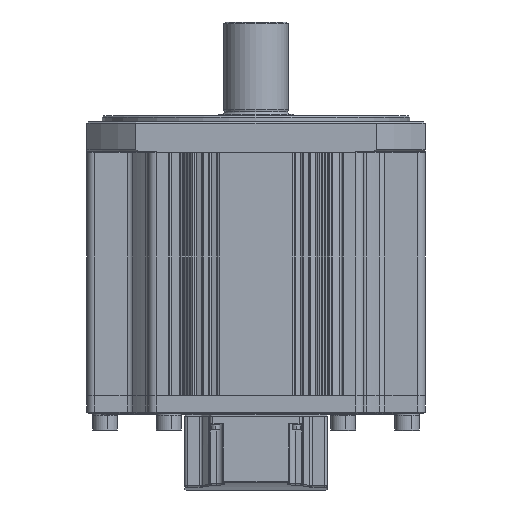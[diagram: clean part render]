
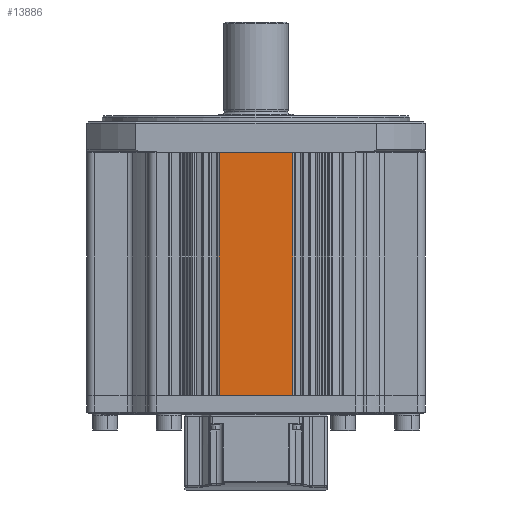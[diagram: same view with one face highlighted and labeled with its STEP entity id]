
A CAD part, front view. The second image highlights one B-rep face of the part: STEP entity #13886.
In plain terms, the highlighted planar face has unit normal (0, -1, 0).
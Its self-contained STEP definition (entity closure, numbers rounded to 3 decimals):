
#913 = VERTEX_POINT ( 'NONE', #92298 ) ;
#991 = VERTEX_POINT ( 'NONE', #92319 ) ;
#1009 = VERTEX_POINT ( 'NONE', #92375 ) ;
#1048 = VERTEX_POINT ( 'NONE', #92358 ) ;
#3842 = DIRECTION ( 'NONE',  ( -1., 0., 0. ) ) ;
#3871 = PLANE ( 'NONE',  #104554 ) ;
#3873 = FACE_OUTER_BOUND ( 'NONE', #91778, .T. ) ;
#3875 = CARTESIAN_POINT ( 'NONE',  ( 6.427, -110., 0. ) ) ;
#3878 = DIRECTION ( 'NONE',  ( 0., 1., 0. ) ) ;
#13886 = ADVANCED_FACE ( 'NONE', ( #3873 ), #3871, .F. ) ;
#28915 = ORIENTED_EDGE ( 'NONE', *, *, #55871, .T. ) ;
#28922 = ORIENTED_EDGE ( 'NONE', *, *, #56287, .F. ) ;
#28977 = ORIENTED_EDGE ( 'NONE', *, *, #56244, .T. ) ;
#29019 = ORIENTED_EDGE ( 'NONE', *, *, #56035, .F. ) ;
#44231 = CARTESIAN_POINT ( 'NONE',  ( 6.427, -110., -158. ) ) ;
#44243 = DIRECTION ( 'NONE',  ( 1., 0., 0. ) ) ;
#44258 = LINE ( 'NONE', #44231, #94797 ) ;
#44393 = CARTESIAN_POINT ( 'NONE',  ( 24., -110., 0. ) ) ;
#44398 = DIRECTION ( 'NONE',  ( 0., 0., -1. ) ) ;
#44426 = LINE ( 'NONE', #44393, #94880 ) ;
#44733 = LINE ( 'NONE', #44742, #92701 ) ;
#44742 = CARTESIAN_POINT ( 'NONE',  ( -24., -110., 0. ) ) ;
#44758 = DIRECTION ( 'NONE',  ( 0., 0., -1. ) ) ;
#44850 = LINE ( 'NONE', #44856, #92659 ) ;
#44856 = CARTESIAN_POINT ( 'NONE',  ( 6.427, -110., 0. ) ) ;
#44897 = DIRECTION ( 'NONE',  ( 1., 0., 0. ) ) ;
#55871 = EDGE_CURVE ( 'NONE', #991, #1009, #44258, .T. ) ;
#56035 = EDGE_CURVE ( 'NONE', #913, #1009, #44426, .T. ) ;
#56244 = EDGE_CURVE ( 'NONE', #1048, #991, #44733, .T. ) ;
#56287 = EDGE_CURVE ( 'NONE', #1048, #913, #44850, .T. ) ;
#91778 = EDGE_LOOP ( 'NONE', ( #28915, #29019, #28922, #28977 ) ) ;
#92298 = CARTESIAN_POINT ( 'NONE',  ( 24., -110., 0. ) ) ;
#92319 = CARTESIAN_POINT ( 'NONE',  ( -24., -110., -158. ) ) ;
#92358 = CARTESIAN_POINT ( 'NONE',  ( -24., -110., 0. ) ) ;
#92375 = CARTESIAN_POINT ( 'NONE',  ( 24., -110., -158. ) ) ;
#92659 = VECTOR ( 'NONE', #44897, 1000. ) ;
#92701 = VECTOR ( 'NONE', #44758, 1000. ) ;
#94797 = VECTOR ( 'NONE', #44243, 1000. ) ;
#94880 = VECTOR ( 'NONE', #44398, 1000. ) ;
#104554 = AXIS2_PLACEMENT_3D ( 'NONE', #3875, #3878, #3842 ) ;
